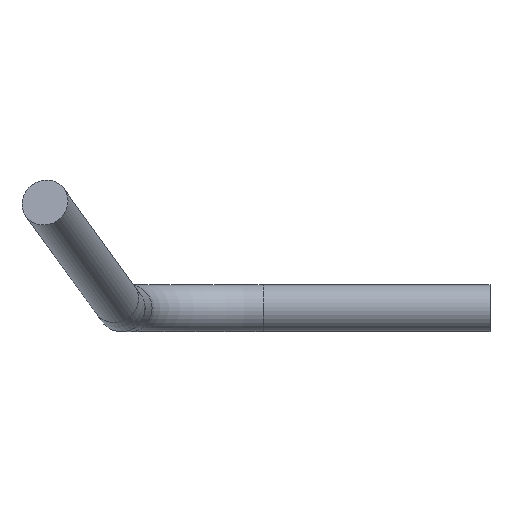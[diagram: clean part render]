
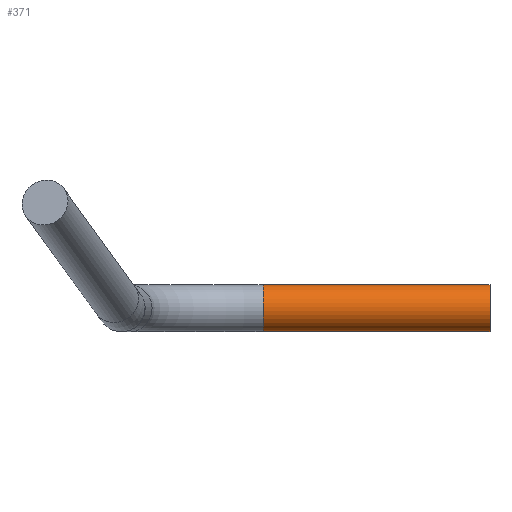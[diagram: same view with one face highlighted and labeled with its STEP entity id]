
A CAD part, front view. The second image highlights one B-rep face of the part: STEP entity #371.
In plain terms, the highlighted cylindrical face has radius 0.525 mm (diameter 1.05 mm), a full revolution.
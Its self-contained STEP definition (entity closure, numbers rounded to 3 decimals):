
#305 = TOROIDAL_SURFACE('',#306,3.,0.525);
#306 = AXIS2_PLACEMENT_3D('',#307,#308,#309);
#307 = CARTESIAN_POINT('',(23.854,23.25,-11.45));
#308 = DIRECTION('',(0.,0.,-1.));
#309 = DIRECTION('',(-0.999,0.05,0.));
#322 = VERTEX_POINT('',#323);
#323 = CARTESIAN_POINT('',(23.854,26.269,
    -10.925));
#344 = EDGE_CURVE('',#322,#322,#345,.T.);
#345 = SURFACE_CURVE('',#346,(#351,#358),.PCURVE_S1.);
#346 = CIRCLE('',#347,0.525);
#347 = AXIS2_PLACEMENT_3D('',#348,#349,#350);
#348 = CARTESIAN_POINT('',(23.854,26.25,-11.45));
#349 = DIRECTION('',(-1.,0.,-0.));
#350 = DIRECTION('',(0.,1.,0.));
#351 = PCURVE('',#305,#352);
#352 = DEFINITIONAL_REPRESENTATION('',(#353),#357);
#353 = LINE('',#354,#355);
#354 = CARTESIAN_POINT('',(1.521,0.));
#355 = VECTOR('',#356,1.);
#356 = DIRECTION('',(0.,1.));
#357 = ( GEOMETRIC_REPRESENTATION_CONTEXT(2) 
PARAMETRIC_REPRESENTATION_CONTEXT() REPRESENTATION_CONTEXT('2D SPACE',''
  ) );
#358 = PCURVE('',#359,#364);
#359 = CYLINDRICAL_SURFACE('',#360,0.525);
#360 = AXIS2_PLACEMENT_3D('',#361,#362,#363);
#361 = CARTESIAN_POINT('',(23.854,26.25,-11.45));
#362 = DIRECTION('',(1.,0.,0.));
#363 = DIRECTION('',(-0.,0.036,0.999));
#364 = DEFINITIONAL_REPRESENTATION('',(#365),#368);
#365 = B_SPLINE_CURVE_WITH_KNOTS('',1,(#366,#367),.UNSPECIFIED.,.F.,.F.,
  (2,2),(4.749,11.032),.PIECEWISE_BEZIER_KNOTS.);
#366 = CARTESIAN_POINT('',(6.283,0.));
#367 = CARTESIAN_POINT('',(0.,0.));
#368 = ( GEOMETRIC_REPRESENTATION_CONTEXT(2) 
PARAMETRIC_REPRESENTATION_CONTEXT() REPRESENTATION_CONTEXT('2D SPACE',''
  ) );
#371 = ADVANCED_FACE('',(#372),#359,.T.);
#372 = FACE_BOUND('',#373,.T.);
#373 = EDGE_LOOP('',(#374,#396,#423,#424));
#374 = ORIENTED_EDGE('',*,*,#375,.T.);
#375 = EDGE_CURVE('',#322,#376,#378,.T.);
#376 = VERTEX_POINT('',#377);
#377 = CARTESIAN_POINT('',(28.9,26.269,-10.925));
#378 = SEAM_CURVE('',#379,(#383,#389),.PCURVE_S1.);
#379 = LINE('',#380,#381);
#380 = CARTESIAN_POINT('',(23.854,26.269,
    -10.925));
#381 = VECTOR('',#382,1.);
#382 = DIRECTION('',(1.,0.,0.));
#383 = PCURVE('',#359,#384);
#384 = DEFINITIONAL_REPRESENTATION('',(#385),#388);
#385 = B_SPLINE_CURVE_WITH_KNOTS('',1,(#386,#387),.UNSPECIFIED.,.F.,.F.,
  (2,2),(0.,5.046),.PIECEWISE_BEZIER_KNOTS.);
#386 = CARTESIAN_POINT('',(6.283,0.));
#387 = CARTESIAN_POINT('',(6.283,5.046));
#388 = ( GEOMETRIC_REPRESENTATION_CONTEXT(2) 
PARAMETRIC_REPRESENTATION_CONTEXT() REPRESENTATION_CONTEXT('2D SPACE',''
  ) );
#389 = PCURVE('',#359,#390);
#390 = DEFINITIONAL_REPRESENTATION('',(#391),#395);
#391 = LINE('',#392,#393);
#392 = CARTESIAN_POINT('',(0.,0.));
#393 = VECTOR('',#394,1.);
#394 = DIRECTION('',(0.,1.));
#395 = ( GEOMETRIC_REPRESENTATION_CONTEXT(2) 
PARAMETRIC_REPRESENTATION_CONTEXT() REPRESENTATION_CONTEXT('2D SPACE',''
  ) );
#396 = ORIENTED_EDGE('',*,*,#397,.F.);
#397 = EDGE_CURVE('',#376,#376,#398,.T.);
#398 = SURFACE_CURVE('',#399,(#404,#411),.PCURVE_S1.);
#399 = CIRCLE('',#400,0.525);
#400 = AXIS2_PLACEMENT_3D('',#401,#402,#403);
#401 = CARTESIAN_POINT('',(28.9,26.25,-11.45));
#402 = DIRECTION('',(1.,0.,0.));
#403 = DIRECTION('',(-0.,0.036,0.999));
#404 = PCURVE('',#359,#405);
#405 = DEFINITIONAL_REPRESENTATION('',(#406),#410);
#406 = LINE('',#407,#408);
#407 = CARTESIAN_POINT('',(0.,5.046));
#408 = VECTOR('',#409,1.);
#409 = DIRECTION('',(1.,0.));
#410 = ( GEOMETRIC_REPRESENTATION_CONTEXT(2) 
PARAMETRIC_REPRESENTATION_CONTEXT() REPRESENTATION_CONTEXT('2D SPACE',''
  ) );
#411 = PCURVE('',#412,#417);
#412 = PLANE('',#413);
#413 = AXIS2_PLACEMENT_3D('',#414,#415,#416);
#414 = CARTESIAN_POINT('',(28.9,26.25,-11.45));
#415 = DIRECTION('',(1.,0.,0.));
#416 = DIRECTION('',(-0.,0.,1.));
#417 = DEFINITIONAL_REPRESENTATION('',(#418),#422);
#418 = CIRCLE('',#419,0.525);
#419 = AXIS2_PLACEMENT_2D('',#420,#421);
#420 = CARTESIAN_POINT('',(0.,0.));
#421 = DIRECTION('',(0.999,-0.036));
#422 = ( GEOMETRIC_REPRESENTATION_CONTEXT(2) 
PARAMETRIC_REPRESENTATION_CONTEXT() REPRESENTATION_CONTEXT('2D SPACE',''
  ) );
#423 = ORIENTED_EDGE('',*,*,#375,.F.);
#424 = ORIENTED_EDGE('',*,*,#344,.F.);
